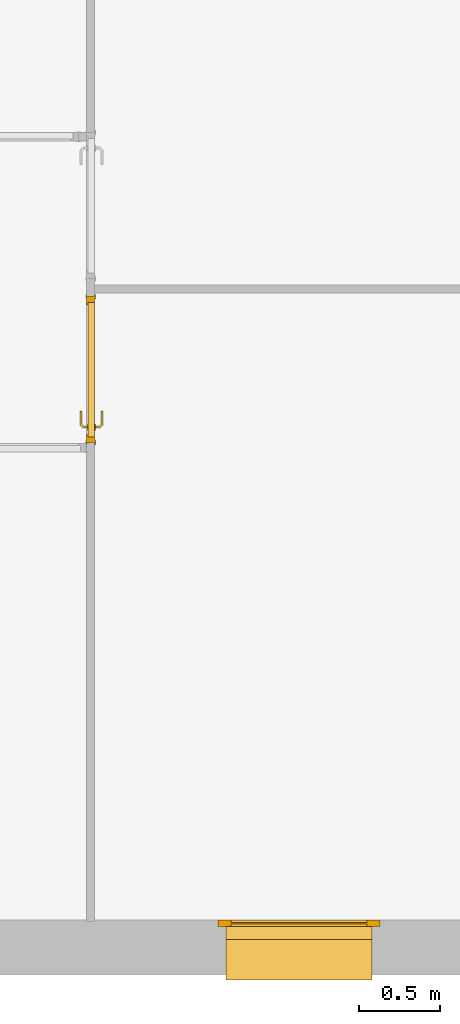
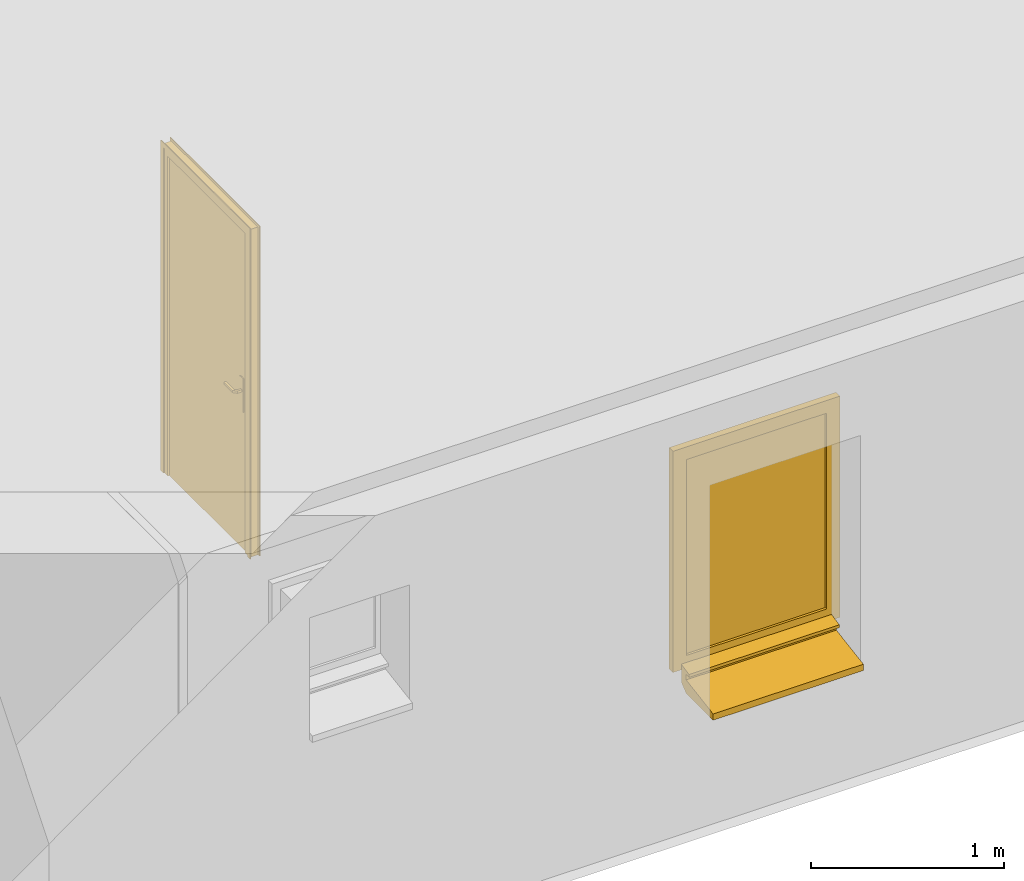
# One storey, part 5 of 14: 1 door, 1 window.
"""IFC2X3 building model written with IfcOpenShell, lengths in millimetres."""

from ifc_helpers import new_model, entity, si_unit, converted_unit, direction, frame, origin, origin_with_axes, place, context, project, spatial, faceted_brep, element, save


model = new_model("IFC2X3")

# Units and contexts
model_context = context("Model", 3, precision=1e-05, world=origin(), true_north=direction((0.0, 1.0, 0.0)))
ifc_project = project(units=[si_unit("LENGTHUNIT", "METRE", prefix="MILLI"), si_unit("AREAUNIT", "SQUARE_METRE"), si_unit("VOLUMEUNIT", "CUBIC_METRE"), converted_unit("PLANEANGLEUNIT", "DEGREE", entity("IfcPlaneAngleMeasure", 0.01745), si_unit("PLANEANGLEUNIT", "RADIAN"), dimensions=[0, 0, 0, 0, 0, 0, 0]), si_unit("SOLIDANGLEUNIT", "STERADIAN"), si_unit("MASSUNIT", "GRAM"), si_unit("TIMEUNIT", "SECOND"), si_unit("THERMODYNAMICTEMPERATUREUNIT", "DEGREE_CELSIUS"), si_unit("LUMINOUSINTENSITYUNIT", "LUMEN")], contexts=[model_context])

# Site, building, storey
placement = place(None, origin_with_axes())
site_placement = place(placement, frame((11636.08881703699, 2815.7442167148, 4.768371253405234e-06), z_axis=(0.0, 0.0, 1.0), x_axis=(1.0, 0.0, 0.0)))
site = spatial("IfcSite", under=ifc_project, at=site_placement, Name="Surface", CompositionType="ELEMENT")
building_placement = place(placement, origin_with_axes())
building = spatial("IfcBuilding", under=site, at=building_placement, Name="Default Building", CompositionType="ELEMENT")
storey_placement = place(building_placement, origin_with_axes())
storey = spatial("IfcBuildingStorey", under=building, at=storey_placement, Name="Plan étage", CompositionType="ELEMENT", Elevation=0.0)

# Window
window_placement = place(storey_placement, frame((11636.08881703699, 2815.7442167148, 4.768371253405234e-06), z_axis=(0.0, 0.0, 1.0), x_axis=(1.0, 0.0, 0.0)))
element("IfcWindow", 1, at=window_placement, inside=storey, Name="IfcWindow - FR_1  Vantail Appui Béton:90x135", context=model_context, shape_type="Brep", body=[
    faceted_brep([(-7306.088805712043, -2490.742956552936, 4859.943730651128), (-6466.088831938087, -2500.765604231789, 4859.943730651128), (-6466.088831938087, -2490.742956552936, 4859.943730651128), (-7306.088805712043, -2500.765604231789, 4859.943730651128), (-6466.088831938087, -2490.742956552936, 3619.999987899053), (-7306.088805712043, -2500.765604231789, 3619.999987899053), (-7306.088805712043, -2490.742956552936, 3619.999987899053), (-6466.088831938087, -2500.765604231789, 3619.999987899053), (-7336.088806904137, -2595.744215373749, 3558.350367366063), (-7336.088806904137, -2515.744217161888, 3540.000004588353), (-7336.088806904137, -2595.744215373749, 3540.000004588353), (-7336.088806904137, -2515.744217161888, 3575.329942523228), (-6436.088830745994, -2595.744215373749, 3540.000004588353), (-6436.088830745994, -2515.744217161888, 3575.329942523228), (-6436.088830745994, -2595.744215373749, 3558.350367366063), (-6436.088830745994, -2515.744217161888, 3540.000004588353), (-7386.088818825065, -2515.744217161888, 4939.943713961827), (-7306.088805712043, -2515.744217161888, 4859.943730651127), (-6386.088818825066, -2515.744217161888, 4939.943713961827), (-7306.088805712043, -2515.744217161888, 3619.999987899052), (-7386.088818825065, -2515.744217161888, 3540.000004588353), (-6466.088831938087, -2515.744217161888, 3619.999987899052), (-6466.088831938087, -2515.744217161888, 4859.943730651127), (-6386.088818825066, -2515.744217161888, 3540.000004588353), (-6386.088818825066, -2475.744218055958, 4939.943713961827), (-6466.088831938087, -2475.744218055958, 4859.943730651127), (-7386.088818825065, -2475.744218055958, 4939.943713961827), (-6466.088831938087, -2475.744218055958, 3619.999987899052), (-6386.088818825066, -2475.744218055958, 3540.000004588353), (-7306.088805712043, -2475.744218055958, 3619.999987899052), (-7306.088805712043, -2475.744218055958, 4859.943730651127), (-7386.088818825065, -2475.744218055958, 3540.000004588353), (-7336.088806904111, -2565.744214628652, 3420.576363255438), (-7336.088806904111, -2845.744223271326, 3460.275791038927), (-7336.088806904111, -2565.744214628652, 3506.120806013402), (-7336.088806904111, -2845.744223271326, 3420.576363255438), (-7336.088806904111, -2515.744210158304, 3539.999998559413), (-7336.088806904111, -2515.744210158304, 3462.110744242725), (-7336.088806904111, -2565.744214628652, 3539.999998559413), (-6436.088830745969, -2565.744214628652, 3420.576363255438), (-6436.088830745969, -2845.744223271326, 3460.275791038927), (-6436.088830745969, -2845.744223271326, 3420.576363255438), (-6436.088830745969, -2565.744214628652, 3506.120806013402), (-6436.088830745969, -2515.744210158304, 3462.110744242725), (-6436.088830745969, -2565.744214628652, 3539.999998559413), (-6436.088830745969, -2515.744210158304, 3539.999998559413)], [[[0, 1, 2]], [[0, 3, 1]], [[4, 5, 6]], [[4, 7, 5]], [[3, 6, 5]], [[3, 0, 6]], [[1, 5, 7]], [[1, 3, 5]], [[2, 7, 4]], [[2, 1, 7]], [[0, 4, 6]], [[0, 2, 4]], [[8, 9, 10]], [[8, 11, 9]], [[12, 13, 14]], [[12, 15, 13]], [[11, 14, 13]], [[11, 8, 14]], [[9, 13, 15]], [[9, 11, 13]], [[10, 15, 12]], [[10, 9, 15]], [[8, 12, 14]], [[8, 10, 12]], [[16, 17, 18]], [[16, 19, 17]], [[19, 20, 21]], [[20, 19, 16]], [[22, 18, 17]], [[21, 18, 22]], [[21, 23, 18]], [[23, 21, 20]], [[24, 25, 26]], [[24, 27, 25]], [[27, 28, 29]], [[28, 27, 24]], [[30, 26, 25]], [[29, 26, 30]], [[29, 31, 26]], [[31, 29, 28]], [[21, 25, 27]], [[21, 22, 25]], [[19, 27, 29]], [[19, 21, 27]], [[17, 29, 30]], [[17, 19, 29]], [[22, 30, 25]], [[22, 17, 30]], [[18, 28, 24]], [[18, 23, 28]], [[16, 24, 26]], [[16, 18, 24]], [[20, 26, 31]], [[20, 16, 26]], [[23, 31, 28]], [[23, 20, 31]], [[32, 33, 34]], [[33, 32, 35]], [[32, 36, 37]], [[34, 36, 32]], [[36, 34, 38]], [[39, 40, 41]], [[39, 42, 40]], [[43, 44, 39]], [[44, 43, 45]], [[36, 44, 45]], [[36, 38, 44]], [[37, 45, 43]], [[37, 36, 45]], [[32, 43, 39]], [[32, 37, 43]], [[35, 39, 41]], [[35, 32, 39]], [[33, 41, 40]], [[33, 35, 41]], [[34, 40, 42]], [[34, 33, 40]], [[38, 42, 44]], [[38, 34, 42]]]),
])

# Door
door_placement = place(storey_placement, frame((11636.08881703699, 2815.7442167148, 4.768371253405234e-06), z_axis=(0.0, 0.0, 1.0), x_axis=(1.0, 0.0, 0.0)))
element("IfcDoor", 2, at=door_placement, inside=storey, Name="IfcDoor - Int. Simple:PP (0.83m x 2.04m)", context=model_context, shape_type="Brep", body=[
    faceted_brep([(-8141.088819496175, 486.7557809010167, 2740.000042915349), (-8146.088818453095, 456.7557797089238, 2740.000042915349), (-8146.088818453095, 486.7557809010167, 2740.000042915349), (-8141.088819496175, 456.7557797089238, 2740.000042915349), (-8141.088819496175, 1356.755785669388, 2740.000042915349), (-8146.088818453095, 1386.755786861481, 2740.000042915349), (-8141.088819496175, 1386.755786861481, 2740.000042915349), (-8146.088818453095, 1356.755785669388, 2740.000042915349), (-8141.088819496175, 486.7557809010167, 4799.99998569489), (-8146.088818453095, 1356.755785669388, 4799.99998569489), (-8141.088819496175, 1356.755785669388, 4799.99998569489), (-8146.088818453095, 486.7557809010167, 4799.99998569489), (-8146.088818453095, 456.7557797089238, 4829.99995708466), (-8141.088819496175, 1386.755786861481, 4829.99995708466), (-8146.088818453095, 1386.755786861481, 4829.99995708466), (-8141.088819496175, 456.7557797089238, 4829.99995708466), (-8196.088819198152, 486.7557809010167, 4799.99998569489), (-8201.08881815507, 1356.755785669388, 4799.99998569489), (-8196.088819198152, 1356.755785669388, 4799.99998569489), (-8201.08881815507, 486.7557809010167, 4799.99998569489), (-8201.08881815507, 456.7557797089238, 4829.99995708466), (-8196.088819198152, 1386.755786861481, 4829.99995708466), (-8201.08881815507, 1386.755786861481, 4829.99995708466), (-8196.088819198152, 456.7557797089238, 4829.99995708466), (-8196.088819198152, 1386.755786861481, 2740.000042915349), (-8201.08881815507, 1386.755786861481, 2740.000042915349), (-8201.08881815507, 1356.755785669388, 2740.000042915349), (-8196.088819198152, 1356.755785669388, 2740.000042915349), (-8196.088819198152, 486.7557809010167, 2740.000042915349), (-8201.08881815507, 486.7557809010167, 2740.000042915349), (-8201.08881815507, 456.7557797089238, 2740.000042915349), (-8196.088819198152, 456.7557797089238, 2740.000042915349), (-8146.088818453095, 506.7557916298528, 4780.000004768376), (-8186.088818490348, 1336.755774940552, 4780.000004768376), (-8146.088818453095, 1336.755774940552, 4780.000004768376), (-8186.088818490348, 506.7557916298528, 4780.000004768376), (-8186.088818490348, 521.755777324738, 4765.000019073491), (-8196.088819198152, 1321.755789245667, 4765.000019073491), (-8186.088818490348, 1321.755789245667, 4765.000019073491), (-8196.088819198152, 521.755777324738, 4765.000019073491), (-8196.088819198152, 471.7557952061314, 4814.999971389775), (-8146.088818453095, 1371.755771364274, 4814.999971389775), (-8196.088819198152, 1371.755771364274, 4814.999971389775), (-8146.088818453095, 471.7557952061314, 4814.999971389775), (-8186.088818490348, 1336.755774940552, 2740.000042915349), (-8146.088818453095, 1336.755774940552, 2740.000042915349), (-8196.088819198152, 1321.755789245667, 2740.000042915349), (-8186.088818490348, 1321.755789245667, 2740.000042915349), (-8196.088819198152, 1371.755771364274, 2740.000042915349), (-8146.088818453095, 1371.755771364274, 2740.000042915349), (-8146.088818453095, 506.7557916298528, 2740.000042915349), (-8146.088818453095, 471.7557952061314, 2740.000042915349), (-8186.088818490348, 506.7557916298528, 2740.000042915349), (-8186.088818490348, 521.755777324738, 2740.000042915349), (-8196.088819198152, 521.755777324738, 2740.000042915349), (-8196.088819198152, 471.7557952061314, 2740.000042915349), (-8186.088818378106, 506.7557916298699, 4779.999980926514), (-8146.088819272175, 506.7557916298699, 2740.000019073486), (-8146.088819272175, 506.7557916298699, 4779.999980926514), (-8186.088818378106, 506.7557916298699, 2740.000019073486), (-8146.088819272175, 1336.755774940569, 2740.000019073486), (-8186.088818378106, 1336.755774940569, 2740.000019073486), (-8146.088819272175, 1336.755774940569, 4779.999980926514), (-8186.088818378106, 1336.755774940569, 4779.999980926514), (-8233.084599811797, 580.9168772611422, 3732.219558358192), (-8231.059301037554, 624.6981279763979, 3732.121313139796), (-8229.034009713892, 582.5946902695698, 3732.219558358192), (-8237.059305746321, 619.2009871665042, 3732.999999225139), (-8229.034009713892, 666.801565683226, 3732.219558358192), (-8225.059303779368, 625.5213035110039, 3732.999999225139), (-8233.084599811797, 666.801565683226, 3732.219558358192), (-8225.059303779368, 666.801565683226, 3732.999999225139), (-8225.059303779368, 584.2410655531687, 3732.999999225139), (-8237.059305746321, 579.2705019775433, 3732.999999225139), (-8237.059305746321, 666.801565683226, 3732.999999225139), (-8237.059305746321, 619.2009890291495, 3747.000001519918), (-8237.059305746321, 666.801565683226, 3747.000001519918), (-8237.059305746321, 579.2705019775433, 3747.000001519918), (-8233.084599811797, 666.801565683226, 3747.780442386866), (-8231.059301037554, 624.6981279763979, 3747.878685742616), (-8229.034009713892, 666.801565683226, 3747.780442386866), (-8229.034009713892, 582.5946902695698, 3747.780442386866), (-8225.059303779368, 625.52131654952, 3747.000001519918), (-8233.084599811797, 580.9168772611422, 3747.780442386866), (-8225.059303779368, 666.801565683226, 3747.000001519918), (-8225.059303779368, 584.2410655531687, 3747.000001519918), (-8213.574025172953, 572.7557850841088, 3732.999999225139), (-8215.220398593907, 568.7810828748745, 3732.219558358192), (-8216.89820973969, 564.7304853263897, 3732.219558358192), (-8218.544586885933, 560.7557831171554, 3732.999999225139), (-8218.544586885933, 560.7557831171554, 3747.000001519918), (-8216.89820973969, 564.7304853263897, 3747.780442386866), (-8215.220398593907, 568.7810828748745, 3747.780442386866), (-8213.574025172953, 572.7557850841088, 3747.000001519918), (-8191.088819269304, 572.7557850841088, 3732.999999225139), (-8191.088819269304, 568.7810828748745, 3732.219558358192), (-8191.088819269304, 564.7304853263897, 3732.219558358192), (-8191.088819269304, 560.7557831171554, 3732.999999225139), (-8191.088819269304, 560.7557831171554, 3747.000001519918), (-8191.088819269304, 564.7304853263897, 3747.780442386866), (-8191.088819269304, 568.7810828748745, 3747.780442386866), (-8191.088819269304, 572.7557850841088, 3747.000001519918), (-8095.060657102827, 666.7744232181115, 3747.000001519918), (-8095.060657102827, 579.1329940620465, 3732.999999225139), (-8095.060657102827, 666.7744232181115, 3732.999999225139), (-8095.060657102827, 579.1329940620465, 3747.000001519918), (-8099.035363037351, 666.7744232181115, 3732.219558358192), (-8101.060654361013, 624.6158027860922, 3732.121313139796), (-8103.085953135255, 666.7744232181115, 3732.219558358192), (-8103.085953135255, 582.4571804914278, 3732.219558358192), (-8107.06065906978, 625.438989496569, 3732.999999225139), (-8099.035363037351, 580.7793693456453, 3732.219558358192), (-8095.060657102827, 619.0634839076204, 3732.999999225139), (-8107.06065906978, 666.7744232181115, 3732.999999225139), (-8107.06065906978, 584.1035557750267, 3732.999999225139), (-8107.06065906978, 625.438989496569, 3747.000001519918), (-8107.06065906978, 584.1035557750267, 3747.000001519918), (-8107.06065906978, 666.7744232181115, 3747.000001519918), (-8099.035363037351, 580.7793693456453, 3747.780442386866), (-8101.060661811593, 624.6158027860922, 3747.878685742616), (-8103.085953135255, 582.4571804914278, 3747.780442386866), (-8095.060657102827, 619.0634801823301, 3747.000001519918), (-8103.085953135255, 666.7744232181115, 3747.780442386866), (-8099.035363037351, 666.7744232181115, 3747.780442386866), (-8113.437868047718, 560.7557831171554, 3747.000001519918), (-8113.437868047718, 560.7557831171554, 3732.999999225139), (-8115.084241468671, 564.7304853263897, 3732.219558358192), (-8116.762056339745, 568.7810828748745, 3732.219558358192), (-8118.408429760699, 572.7557850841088, 3732.999999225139), (-8118.408429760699, 572.7557850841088, 3747.000001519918), (-8116.762056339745, 568.7810828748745, 3747.780442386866), (-8115.084241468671, 564.7304853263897, 3747.780442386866), (-8141.088818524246, 560.7557831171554, 3747.000001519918), (-8141.088818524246, 560.7557831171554, 3732.999999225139), (-8141.088818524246, 564.7304853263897, 3732.219558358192), (-8141.088818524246, 568.7810828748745, 3732.219558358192), (-8141.088818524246, 572.7557850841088, 3732.999999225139), (-8141.088818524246, 572.7557850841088, 3747.000001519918), (-8141.088818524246, 568.7810828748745, 3747.780442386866), (-8141.088818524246, 564.7304853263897, 3747.780442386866), (-8186.08881844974, 586.7557836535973, 3819.999996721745), (-8191.088819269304, 586.7557836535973, 3610.000003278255), (-8191.088819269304, 586.7557836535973, 3819.999996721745), (-8186.08881844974, 586.7557836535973, 3610.000003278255), (-8191.088819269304, 577.1085446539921, 3606.003981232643), (-8186.08881844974, 577.1085446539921, 3606.003981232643), (-8191.088819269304, 566.7557841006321, 3604.641016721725), (-8186.08881844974, 566.7557841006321, 3604.641016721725), (-8186.08881844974, 556.4030198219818, 3606.003981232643), (-8191.088819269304, 556.4030198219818, 3606.003981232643), (-8191.088819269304, 546.755784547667, 3610.000003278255), (-8186.08881844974, 546.755784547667, 3610.000003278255), (-8191.088819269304, 546.755784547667, 3819.999996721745), (-8186.08881844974, 546.755784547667, 3819.999996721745), (-8191.088819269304, 556.4030198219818, 3823.996018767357), (-8186.08881844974, 556.4030198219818, 3823.996018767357), (-8191.088819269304, 566.7557841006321, 3825.358983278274), (-8186.08881844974, 566.7557841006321, 3825.358983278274), (-8186.08881844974, 577.1085446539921, 3823.996018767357), (-8191.088819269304, 577.1085446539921, 3823.996018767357), (-8141.088818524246, 546.755784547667, 3610.000003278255), (-8146.088819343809, 546.755784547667, 3819.999996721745), (-8146.088819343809, 546.755784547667, 3610.000003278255), (-8141.088818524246, 546.755784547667, 3819.999996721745), (-8146.088819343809, 556.4030198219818, 3823.996018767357), (-8141.088818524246, 556.4030198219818, 3823.996018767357), (-8146.088819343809, 566.7557841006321, 3825.358983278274), (-8141.088818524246, 566.7557841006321, 3825.358983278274), (-8141.088818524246, 577.1085446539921, 3823.996018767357), (-8146.088819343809, 577.1085446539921, 3823.996018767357), (-8146.088819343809, 586.7557836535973, 3819.999996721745), (-8141.088818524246, 586.7557836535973, 3819.999996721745), (-8146.088819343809, 586.7557836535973, 3610.000003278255), (-8141.088818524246, 586.7557836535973, 3610.000003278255), (-8146.088819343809, 577.1085446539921, 3606.003981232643), (-8141.088818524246, 577.1085446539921, 3606.003981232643), (-8146.088819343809, 566.7557841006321, 3604.641016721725), (-8141.088818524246, 566.7557841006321, 3604.641016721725), (-8141.088818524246, 556.4030198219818, 3606.003981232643), (-8146.088819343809, 556.4030198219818, 3606.003981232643)], [[[0, 1, 2]], [[0, 3, 1]], [[4, 5, 6]], [[4, 7, 5]], [[8, 9, 10]], [[8, 11, 9]], [[12, 13, 14]], [[12, 15, 13]], [[14, 6, 5]], [[14, 13, 6]], [[10, 7, 4]], [[10, 9, 7]], [[0, 11, 8]], [[0, 2, 11]], [[12, 9, 11]], [[14, 9, 12]], [[14, 7, 9]], [[7, 14, 5]], [[11, 1, 12]], [[1, 11, 2]], [[1, 15, 12]], [[1, 3, 15]], [[13, 10, 6]], [[13, 8, 10]], [[15, 8, 13]], [[15, 0, 8]], [[0, 15, 3]], [[6, 10, 4]], [[16, 17, 18]], [[16, 19, 17]], [[20, 21, 22]], [[20, 23, 21]], [[22, 24, 25]], [[22, 21, 24]], [[18, 26, 27]], [[18, 17, 26]], [[27, 25, 24]], [[27, 26, 25]], [[28, 19, 16]], [[28, 29, 19]], [[20, 17, 19]], [[22, 17, 20]], [[22, 26, 17]], [[26, 22, 25]], [[19, 30, 20]], [[30, 19, 29]], [[30, 23, 20]], [[30, 31, 23]], [[21, 18, 24]], [[21, 16, 18]], [[23, 16, 21]], [[23, 28, 16]], [[28, 23, 31]], [[24, 18, 27]], [[28, 30, 29]], [[28, 31, 30]], [[32, 33, 34]], [[32, 35, 33]], [[36, 37, 38]], [[36, 39, 37]], [[40, 41, 42]], [[40, 43, 41]], [[34, 44, 45]], [[34, 33, 44]], [[38, 46, 47]], [[38, 37, 46]], [[46, 44, 47]], [[48, 44, 46]], [[48, 45, 44]], [[45, 48, 49]], [[42, 49, 48]], [[42, 41, 49]], [[41, 34, 49]], [[41, 32, 34]], [[43, 32, 41]], [[43, 50, 32]], [[50, 43, 51]], [[49, 34, 45]], [[50, 35, 32]], [[50, 52, 35]], [[33, 38, 44]], [[33, 36, 38]], [[35, 36, 33]], [[35, 53, 36]], [[53, 35, 52]], [[44, 38, 47]], [[53, 39, 36]], [[53, 54, 39]], [[40, 54, 55]], [[40, 39, 54]], [[40, 37, 39]], [[42, 37, 40]], [[42, 46, 37]], [[46, 42, 48]], [[55, 43, 40]], [[55, 51, 43]], [[53, 55, 54]], [[52, 55, 53]], [[50, 55, 52]], [[55, 50, 51]], [[56, 57, 58]], [[56, 59, 57]], [[59, 60, 57]], [[59, 61, 60]], [[61, 62, 60]], [[61, 63, 62]], [[63, 58, 62]], [[63, 56, 58]], [[58, 60, 62]], [[58, 57, 60]], [[56, 61, 59]], [[56, 63, 61]], [[64, 65, 66]], [[64, 67, 65]], [[68, 69, 65]], [[70, 68, 65]], [[69, 68, 71]], [[72, 66, 69]], [[65, 69, 66]], [[64, 73, 67]], [[74, 70, 67]], [[67, 70, 65]], [[74, 75, 76]], [[67, 75, 74]], [[73, 75, 67]], [[75, 73, 77]], [[78, 79, 80]], [[81, 82, 79]], [[83, 81, 79]], [[75, 83, 79]], [[77, 83, 75]], [[76, 75, 78]], [[82, 84, 80]], [[85, 82, 81]], [[75, 79, 78]], [[82, 80, 79]], [[84, 69, 71]], [[84, 72, 69]], [[82, 72, 84]], [[72, 82, 85]], [[76, 70, 74]], [[78, 70, 76]], [[78, 68, 70]], [[80, 68, 78]], [[80, 71, 68]], [[71, 80, 84]], [[66, 86, 87]], [[66, 72, 86]], [[73, 88, 89]], [[73, 64, 88]], [[89, 77, 73]], [[89, 90, 77]], [[83, 90, 91]], [[83, 77, 90]], [[85, 92, 93]], [[85, 81, 92]], [[93, 72, 85]], [[93, 86, 72]], [[87, 94, 95]], [[87, 86, 94]], [[87, 64, 66]], [[87, 88, 64]], [[95, 88, 87]], [[88, 95, 96]], [[89, 96, 97]], [[89, 88, 96]], [[97, 90, 89]], [[97, 98, 90]], [[91, 98, 99]], [[91, 90, 98]], [[83, 92, 81]], [[91, 92, 83]], [[91, 100, 92]], [[100, 91, 99]], [[93, 100, 101]], [[93, 92, 100]], [[101, 86, 93]], [[101, 94, 86]], [[96, 98, 97]], [[96, 99, 98]], [[95, 99, 96]], [[95, 100, 99]], [[94, 100, 95]], [[100, 94, 101]], [[102, 103, 104]], [[102, 105, 103]], [[106, 107, 108]], [[109, 110, 107]], [[111, 109, 107]], [[112, 111, 107]], [[103, 111, 112]], [[104, 112, 106]], [[110, 113, 108]], [[114, 110, 109]], [[112, 107, 106]], [[110, 108, 107]], [[115, 114, 116]], [[117, 114, 115]], [[117, 110, 114]], [[110, 117, 113]], [[118, 119, 120]], [[118, 121, 119]], [[122, 115, 119]], [[123, 122, 119]], [[115, 122, 117]], [[116, 120, 115]], [[119, 115, 120]], [[118, 105, 121]], [[102, 123, 121]], [[121, 123, 119]], [[117, 108, 113]], [[122, 108, 117]], [[122, 106, 108]], [[123, 106, 122]], [[123, 104, 106]], [[104, 123, 102]], [[124, 103, 105]], [[124, 125, 103]], [[111, 125, 126]], [[111, 103, 125]], [[114, 127, 128]], [[114, 109, 127]], [[128, 116, 114]], [[128, 129, 116]], [[120, 129, 130]], [[120, 116, 129]], [[105, 131, 124]], [[105, 118, 131]], [[132, 125, 124]], [[132, 133, 125]], [[126, 133, 134]], [[126, 125, 133]], [[111, 127, 109]], [[126, 127, 111]], [[126, 135, 127]], [[135, 126, 134]], [[128, 135, 136]], [[128, 127, 135]], [[136, 129, 128]], [[136, 137, 129]], [[130, 137, 138]], [[130, 129, 137]], [[130, 118, 120]], [[130, 131, 118]], [[138, 131, 130]], [[131, 138, 139]], [[124, 139, 132]], [[124, 131, 139]], [[136, 138, 137]], [[135, 138, 136]], [[135, 139, 138]], [[134, 139, 135]], [[134, 132, 139]], [[132, 134, 133]], [[140, 141, 142]], [[140, 143, 141]], [[144, 143, 145]], [[144, 141, 143]], [[146, 145, 147]], [[146, 144, 145]], [[148, 146, 147]], [[148, 149, 146]], [[150, 148, 151]], [[150, 149, 148]], [[151, 152, 150]], [[151, 153, 152]], [[154, 153, 155]], [[154, 152, 153]], [[156, 155, 157]], [[156, 154, 155]], [[158, 156, 157]], [[158, 159, 156]], [[142, 158, 140]], [[142, 159, 158]], [[146, 141, 144]], [[149, 141, 146]], [[150, 141, 149]], [[150, 142, 141]], [[150, 159, 142]], [[150, 156, 159]], [[150, 154, 156]], [[154, 150, 152]], [[157, 140, 158]], [[155, 140, 157]], [[153, 140, 155]], [[153, 143, 140]], [[153, 145, 143]], [[153, 147, 145]], [[153, 148, 147]], [[148, 153, 151]], [[160, 161, 162]], [[160, 163, 161]], [[164, 163, 165]], [[164, 161, 163]], [[166, 165, 167]], [[166, 164, 165]], [[168, 166, 167]], [[168, 169, 166]], [[170, 168, 171]], [[170, 169, 168]], [[171, 172, 170]], [[171, 173, 172]], [[174, 173, 175]], [[174, 172, 173]], [[176, 175, 177]], [[176, 174, 175]], [[178, 176, 177]], [[178, 179, 176]], [[162, 178, 160]], [[162, 179, 178]], [[176, 172, 174]], [[179, 172, 176]], [[162, 172, 179]], [[162, 170, 172]], [[162, 169, 170]], [[162, 166, 169]], [[162, 164, 166]], [[164, 162, 161]], [[167, 171, 168]], [[165, 171, 167]], [[163, 171, 165]], [[163, 173, 171]], [[163, 175, 173]], [[163, 177, 175]], [[163, 178, 177]], [[178, 163, 160]]]),
])

save(model, "model.ifc")
